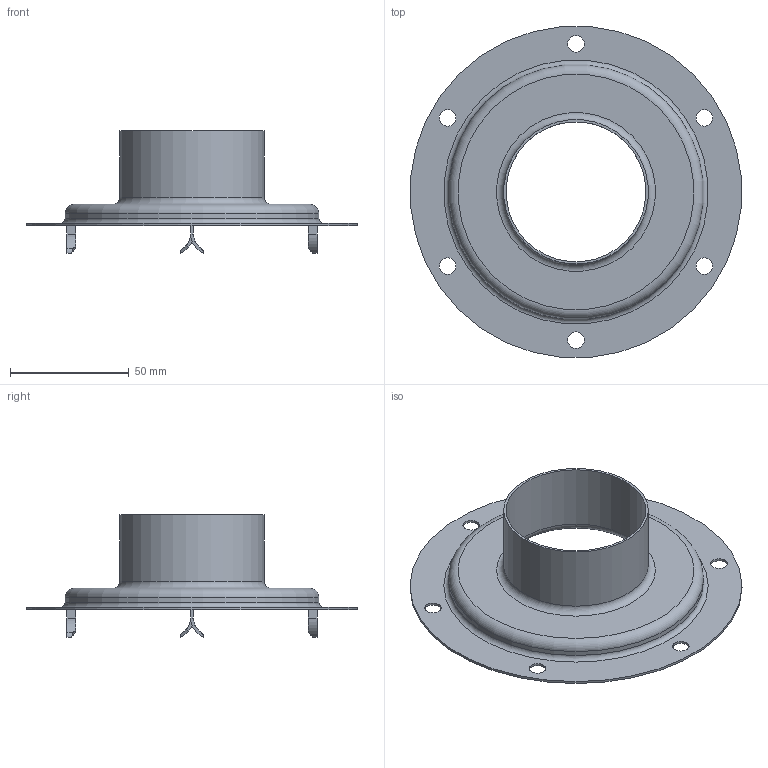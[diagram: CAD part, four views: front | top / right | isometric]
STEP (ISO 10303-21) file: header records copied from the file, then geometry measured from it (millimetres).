
FILE_DESCRIPTION(('STEP AP203'), '1');
FILE_NAME('5122200 捘', '', ('UNSPECIFIED'), ('UNSPECIFIED'), 'C3D Converter', 'C3D Toolkit', '');
FILE_SCHEMA(('CONFIG_CONTROL_DESIGN'));
Length unit declared in the file: millimetre
Products named in the file (3): 5122200; 5122200.002; 5122200.001
Assembly tree (5 placements, depth 2):
  5122200
    5122200.002
    5122200.001  x4
Bounding box: 139.47 x 139.47 x 51.58 mm (x, y, z)
Volume: 20397.9 mm3; surface area: 41691.7 mm2
Topology: 5 solids, 5 shells, 82 faces, 197 edges, 128 vertices
Faces by surface type: plane 45, cylinder 27, torus 6, bspline 4
Full cylindrical faces by diameter (mm): 7 x6, 59 x1, 61 x1, 105.5 x1, 107.5 x1, 140 x1
Entity records: 1681 total; most frequent: CARTESIAN_POINT 269, DIRECTION 203, ORIENTED_EDGE 150, AXIS2_PLACEMENT_3D 89, EDGE_CURVE 75, EDGE_LOOP 71, VERTEX_POINT 62, FACE_BOUND 55
